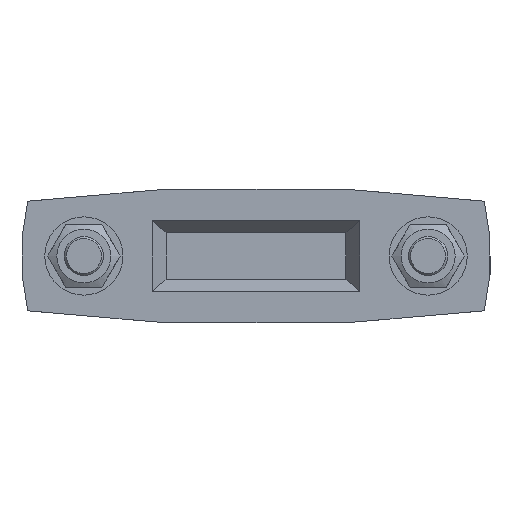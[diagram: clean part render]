
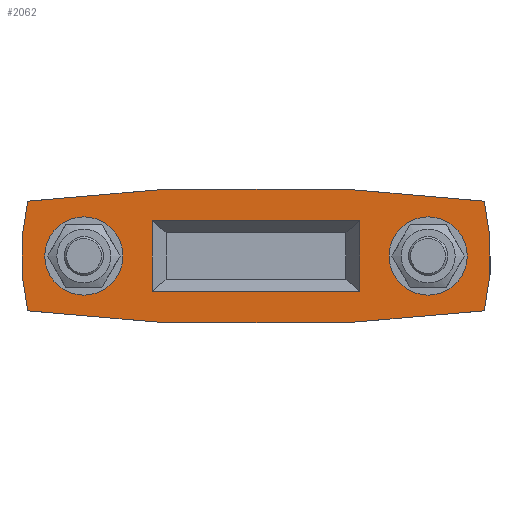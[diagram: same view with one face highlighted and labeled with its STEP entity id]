
A CAD part, front view. The second image highlights one B-rep face of the part: STEP entity #2062.
In plain terms, the highlighted planar face has unit normal (0, -1, 0).
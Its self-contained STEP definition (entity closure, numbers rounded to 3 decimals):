
#95=LINE('',#3295,#227);
#96=LINE('',#3299,#228);
#97=LINE('',#3303,#229);
#98=LINE('',#3307,#230);
#99=LINE('',#3311,#231);
#100=LINE('',#3314,#232);
#101=LINE('',#3317,#233);
#102=LINE('',#3319,#234);
#103=LINE('',#3321,#235);
#104=LINE('',#3322,#236);
#227=VECTOR('',#2582,22.307);
#228=VECTOR('',#2585,16.337);
#229=VECTOR('',#2588,16.337);
#230=VECTOR('',#2591,22.307);
#231=VECTOR('',#2594,16.337);
#232=VECTOR('',#2597,16.337);
#233=VECTOR('',#2598,26.5);
#234=VECTOR('',#2599,9.);
#235=VECTOR('',#2600,26.5);
#236=VECTOR('',#2601,9.);
#359=PLANE('',#2236);
#465=FACE_BOUND('',#691,.T.);
#466=FACE_BOUND('',#692,.T.);
#467=FACE_BOUND('',#693,.T.);
#546=FACE_OUTER_BOUND('',#690,.T.);
#690=EDGE_LOOP('',(#1525,#1526,#1527,#1528,#1529,#1530,#1531,#1532,#1533,
#1534,#1535,#1536));
#691=EDGE_LOOP('',(#1537,#1538,#1539,#1540));
#692=EDGE_LOOP('',(#1541));
#693=EDGE_LOOP('',(#1542));
#817=CIRCLE('',#2235,20.);
#818=CIRCLE('',#2237,20.);
#819=CIRCLE('',#2238,30.);
#820=CIRCLE('',#2239,20.);
#821=CIRCLE('',#2240,20.);
#822=CIRCLE('',#2241,30.);
#823=CIRCLE('',#2242,5.);
#824=CIRCLE('',#2243,5.);
#943=VERTEX_POINT('',#3288);
#944=VERTEX_POINT('',#3290);
#945=VERTEX_POINT('',#3294);
#946=VERTEX_POINT('',#3296);
#947=VERTEX_POINT('',#3298);
#948=VERTEX_POINT('',#3300);
#949=VERTEX_POINT('',#3302);
#950=VERTEX_POINT('',#3304);
#951=VERTEX_POINT('',#3306);
#952=VERTEX_POINT('',#3308);
#953=VERTEX_POINT('',#3310);
#954=VERTEX_POINT('',#3312);
#955=VERTEX_POINT('',#3315);
#956=VERTEX_POINT('',#3316);
#957=VERTEX_POINT('',#3318);
#958=VERTEX_POINT('',#3320);
#959=VERTEX_POINT('',#3323);
#960=VERTEX_POINT('',#3325);
#1159=EDGE_CURVE('',#943,#944,#817,.T.);
#1161=EDGE_CURVE('',#943,#945,#95,.T.);
#1162=EDGE_CURVE('',#946,#945,#818,.T.);
#1163=EDGE_CURVE('',#946,#947,#96,.T.);
#1164=EDGE_CURVE('',#947,#948,#819,.T.);
#1165=EDGE_CURVE('',#948,#949,#97,.T.);
#1166=EDGE_CURVE('',#950,#949,#820,.T.);
#1167=EDGE_CURVE('',#950,#951,#98,.T.);
#1168=EDGE_CURVE('',#952,#951,#821,.T.);
#1169=EDGE_CURVE('',#952,#953,#99,.T.);
#1170=EDGE_CURVE('',#953,#954,#822,.T.);
#1171=EDGE_CURVE('',#954,#944,#100,.T.);
#1172=EDGE_CURVE('',#955,#956,#101,.T.);
#1173=EDGE_CURVE('',#956,#957,#102,.T.);
#1174=EDGE_CURVE('',#957,#958,#103,.T.);
#1175=EDGE_CURVE('',#958,#955,#104,.T.);
#1176=EDGE_CURVE('',#959,#959,#823,.T.);
#1177=EDGE_CURVE('',#960,#960,#824,.T.);
#1525=ORIENTED_EDGE('',*,*,#1159,.F.);
#1526=ORIENTED_EDGE('',*,*,#1161,.T.);
#1527=ORIENTED_EDGE('',*,*,#1162,.F.);
#1528=ORIENTED_EDGE('',*,*,#1163,.T.);
#1529=ORIENTED_EDGE('',*,*,#1164,.T.);
#1530=ORIENTED_EDGE('',*,*,#1165,.T.);
#1531=ORIENTED_EDGE('',*,*,#1166,.F.);
#1532=ORIENTED_EDGE('',*,*,#1167,.T.);
#1533=ORIENTED_EDGE('',*,*,#1168,.F.);
#1534=ORIENTED_EDGE('',*,*,#1169,.T.);
#1535=ORIENTED_EDGE('',*,*,#1170,.T.);
#1536=ORIENTED_EDGE('',*,*,#1171,.T.);
#1537=ORIENTED_EDGE('',*,*,#1172,.T.);
#1538=ORIENTED_EDGE('',*,*,#1173,.T.);
#1539=ORIENTED_EDGE('',*,*,#1174,.T.);
#1540=ORIENTED_EDGE('',*,*,#1175,.T.);
#1541=ORIENTED_EDGE('',*,*,#1176,.T.);
#1542=ORIENTED_EDGE('',*,*,#1177,.T.);
#2062=ADVANCED_FACE('',(#546,#465,#466,#467),#359,.T.);
#2235=AXIS2_PLACEMENT_3D('',#3291,#2577,#2578);
#2236=AXIS2_PLACEMENT_3D('',#3293,#2580,#2581);
#2237=AXIS2_PLACEMENT_3D('',#3297,#2583,#2584);
#2238=AXIS2_PLACEMENT_3D('',#3301,#2586,#2587);
#2239=AXIS2_PLACEMENT_3D('',#3305,#2589,#2590);
#2240=AXIS2_PLACEMENT_3D('',#3309,#2592,#2593);
#2241=AXIS2_PLACEMENT_3D('',#3313,#2595,#2596);
#2242=AXIS2_PLACEMENT_3D('',#3324,#2602,#2603);
#2243=AXIS2_PLACEMENT_3D('',#3326,#2604,#2605);
#2577=DIRECTION('center_axis',(0.,1.,0.));
#2578=DIRECTION('ref_axis',(0.044,0.,0.999));
#2580=DIRECTION('center_axis',(0.,-1.,0.));
#2581=DIRECTION('ref_axis',(0.,0.,-1.));
#2582=DIRECTION('',(-1.,0.,0.));
#2583=DIRECTION('center_axis',(0.,1.,0.));
#2584=DIRECTION('ref_axis',(-0.044,0.,
0.999));
#2585=DIRECTION('',(-0.996,0.,-0.087));
#2586=DIRECTION('center_axis',(0.,-1.,0.));
#2587=DIRECTION('ref_axis',(-0.959,0.,0.283));
#2588=DIRECTION('',(0.996,0.,-0.087));
#2589=DIRECTION('center_axis',(0.,1.,0.));
#2590=DIRECTION('ref_axis',(-0.044,0.,-0.999));
#2591=DIRECTION('',(1.,0.,0.));
#2592=DIRECTION('center_axis',(0.,1.,0.));
#2593=DIRECTION('ref_axis',(0.044,0.,-0.999));
#2594=DIRECTION('',(0.996,0.,0.087));
#2595=DIRECTION('center_axis',(0.,-1.,0.));
#2596=DIRECTION('ref_axis',(0.959,0.,-0.283));
#2597=DIRECTION('',(-0.996,0.,0.087));
#2598=DIRECTION('',(1.,0.,0.));
#2599=DIRECTION('',(0.,0.,-1.));
#2600=DIRECTION('',(-1.,0.,0.));
#2601=DIRECTION('',(0.,0.,1.));
#2602=DIRECTION('center_axis',(0.,1.,0.));
#2603=DIRECTION('ref_axis',(-1.,0.,0.));
#2604=DIRECTION('center_axis',(0.,1.,0.));
#2605=DIRECTION('ref_axis',(-1.,0.,0.));
#3288=CARTESIAN_POINT('',(21.57,-26.218,-24.083));
#3290=CARTESIAN_POINT('',(23.313,-26.218,-24.159));
#3291=CARTESIAN_POINT('Origin',(21.57,-26.218,-44.083));
#3293=CARTESIAN_POINT('Origin',(10.416,-26.218,-32.583));
#3294=CARTESIAN_POINT('',(-0.737,-26.218,-24.083));
#3295=CARTESIAN_POINT('',(40.416,-26.218,-24.083));
#3296=CARTESIAN_POINT('',(-2.48,-26.218,-24.159));
#3297=CARTESIAN_POINT('Origin',(-0.737,-26.218,-44.083));
#3298=CARTESIAN_POINT('',(-18.756,-26.218,-25.583));
#3299=CARTESIAN_POINT('',(3.988,-26.218,-23.593));
#3300=CARTESIAN_POINT('',(-18.756,-26.218,-39.583));
#3301=CARTESIAN_POINT('Origin',(10.416,-26.218,-32.583));
#3302=CARTESIAN_POINT('',(-2.48,-26.218,-41.006));
#3303=CARTESIAN_POINT('',(-4.584,-26.218,-40.822));
#3304=CARTESIAN_POINT('',(-0.737,-26.218,-41.083));
#3305=CARTESIAN_POINT('Origin',(-0.737,-26.218,-21.083));
#3306=CARTESIAN_POINT('',(21.57,-26.218,-41.083));
#3307=CARTESIAN_POINT('',(-19.584,-26.218,-41.083));
#3308=CARTESIAN_POINT('',(23.313,-26.218,-41.006));
#3309=CARTESIAN_POINT('Origin',(21.57,-26.218,-21.083));
#3310=CARTESIAN_POINT('',(39.588,-26.218,-39.583));
#3311=CARTESIAN_POINT('',(16.844,-26.218,-41.572));
#3312=CARTESIAN_POINT('',(39.588,-26.218,-25.583));
#3313=CARTESIAN_POINT('Origin',(10.416,-26.218,-32.583));
#3314=CARTESIAN_POINT('',(25.417,-26.218,-24.343));
#3315=CARTESIAN_POINT('',(-2.834,-26.218,-28.083));
#3316=CARTESIAN_POINT('',(23.666,-26.218,-28.083));
#3317=CARTESIAN_POINT('',(4.666,-26.218,-28.083));
#3318=CARTESIAN_POINT('',(23.666,-26.218,-37.083));
#3319=CARTESIAN_POINT('',(23.666,-26.218,-31.083));
#3320=CARTESIAN_POINT('',(-2.834,-26.218,-37.083));
#3321=CARTESIAN_POINT('',(16.166,-26.218,-37.083));
#3322=CARTESIAN_POINT('',(-2.834,-26.218,-34.083));
#3323=CARTESIAN_POINT('',(-6.584,-26.218,-32.583));
#3324=CARTESIAN_POINT('Origin',(-11.584,-26.218,-32.583));
#3325=CARTESIAN_POINT('',(37.416,-26.218,-32.583));
#3326=CARTESIAN_POINT('Origin',(32.416,-26.218,-32.583));
